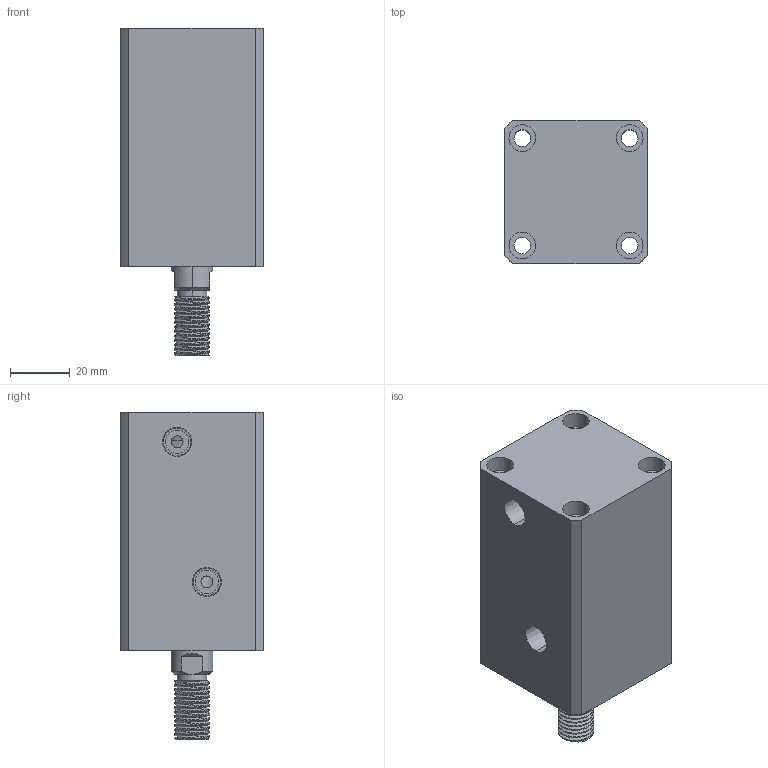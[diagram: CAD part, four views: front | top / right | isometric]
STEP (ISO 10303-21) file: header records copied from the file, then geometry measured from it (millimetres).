
FILE_DESCRIPTION (( 'STEP AP214' ), '1' );
FILE_NAME ('chtb-sd25x35w_asm.STEP', '2018-05-22T09:24:54', ( 'Windows' ), ( 'Microsoft' ), 'SwSTEP 2.0', 'SolidWorks 2015', '' );
FILE_SCHEMA (( 'AUTOMOTIVE_DESIGN' ));
Length unit declared in the file: millimetre
Products named in the file (4): CHTB-SD25X35WHSG; CHTB-SD25X35NBT; CHTB-25QG; chtb-sd25x35w_asm
Assembly tree (3 placements, depth 2):
  chtb-sd25x35w_asm
    CHTB-25QG
    CHTB-SD25X35NBT
    CHTB-SD25X35WHSG
Bounding box: 48 x 48 x 110 mm (x, y, z)
Volume: 162929.8 mm3; surface area: 43571.5 mm2
Topology: 3 solids, 3 shells, 178 faces, 474 edges, 323 vertices
Faces by surface type: cylinder 113, plane 39, cone 14, bspline 12
Entity records: 10610 total; most frequent: CARTESIAN_POINT 6273, ORIENTED_EDGE 940, DIRECTION 778, EDGE_CURVE 470, VERTEX_POINT 323, AXIS2_PLACEMENT_3D 317, EDGE_LOOP 217, FACE_OUTER_BOUND 178
